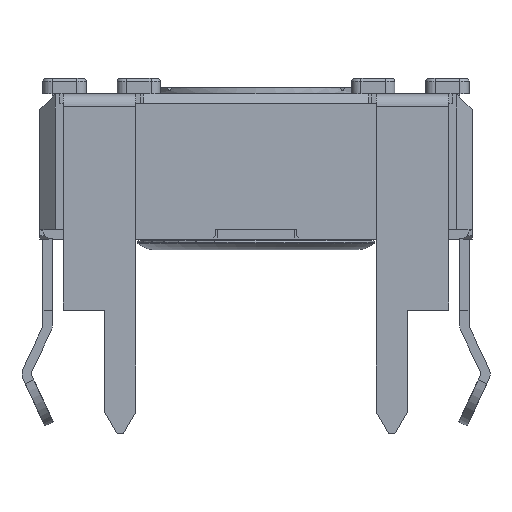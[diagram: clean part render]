
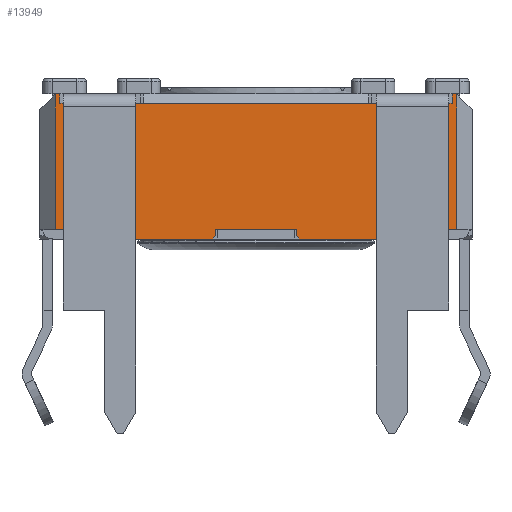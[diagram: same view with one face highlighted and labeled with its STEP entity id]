
A CAD part, front view. The second image highlights one B-rep face of the part: STEP entity #13949.
In plain terms, the highlighted planar face has unit normal (0, -1, 0).
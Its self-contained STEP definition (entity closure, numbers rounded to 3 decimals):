
#1090=FACE_OUTER_BOUND('',#1828,.T.);
#1828=EDGE_LOOP('',(#11010,#11011,#11012,#11013,#11014,#11015,#11016,#11017,
#11018,#11019,#11020,#11021,#11022,#11023,#11024,#11025,#11026,#11027,#11028,
#11029,#11030,#11031,#11032,#11033,#11034));
#2495=LINE('',#20072,#4091);
#2498=LINE('',#20080,#4094);
#2524=LINE('',#20131,#4120);
#2525=LINE('',#20133,#4121);
#2528=LINE('',#20141,#4124);
#2554=LINE('',#20192,#4150);
#2746=LINE('',#20756,#4342);
#2759=LINE('',#20780,#4355);
#2908=LINE('',#21235,#4504);
#3072=LINE('',#21677,#4668);
#3077=LINE('',#21687,#4673);
#3082=LINE('',#21697,#4678);
#3097=LINE('',#21723,#4693);
#3182=LINE('',#21996,#4778);
#3190=LINE('',#22014,#4786);
#3196=LINE('',#22022,#4792);
#3197=LINE('',#22025,#4793);
#3198=LINE('',#22027,#4794);
#3199=LINE('',#22029,#4795);
#3200=LINE('',#22030,#4796);
#3201=LINE('',#22031,#4797);
#3202=LINE('',#22032,#4798);
#3203=LINE('',#22033,#4799);
#3204=LINE('',#22034,#4800);
#3205=LINE('',#22035,#4801);
#4091=VECTOR('',#16097,10.);
#4094=VECTOR('',#16108,10.);
#4120=VECTOR('',#16136,10.);
#4121=VECTOR('',#16139,10.);
#4124=VECTOR('',#16150,10.);
#4150=VECTOR('',#16178,10.);
#4342=VECTOR('',#16748,10.);
#4355=VECTOR('',#16775,10.);
#4504=VECTOR('',#17162,10.);
#4668=VECTOR('',#17458,10.);
#4673=VECTOR('',#17463,10.);
#4678=VECTOR('',#17468,10.);
#4693=VECTOR('',#17485,10.);
#4778=VECTOR('',#17704,10.);
#4786=VECTOR('',#17716,10.);
#4792=VECTOR('',#17726,10.);
#4793=VECTOR('',#17729,10.);
#4794=VECTOR('',#17730,10.);
#4795=VECTOR('',#17731,10.);
#4796=VECTOR('',#17732,10.);
#4797=VECTOR('',#17733,10.);
#4798=VECTOR('',#17734,10.);
#4799=VECTOR('',#17735,10.);
#4800=VECTOR('',#17736,10.);
#4801=VECTOR('',#17737,10.);
#5381=VERTEX_POINT('',#19356);
#5391=VERTEX_POINT('',#19378);
#5399=VERTEX_POINT('',#19399);
#5438=VERTEX_POINT('',#19496);
#5647=VERTEX_POINT('',#20079);
#5671=VERTEX_POINT('',#20129);
#5672=VERTEX_POINT('',#20140);
#5696=VERTEX_POINT('',#20190);
#5878=VERTEX_POINT('',#20753);
#5879=VERTEX_POINT('',#20755);
#5882=VERTEX_POINT('',#20777);
#5883=VERTEX_POINT('',#20779);
#6009=VERTEX_POINT('',#21231);
#6126=VERTEX_POINT('',#21676);
#6130=VERTEX_POINT('',#21684);
#6131=VERTEX_POINT('',#21686);
#6135=VERTEX_POINT('',#21694);
#6136=VERTEX_POINT('',#21696);
#6198=VERTEX_POINT('',#21994);
#6199=VERTEX_POINT('',#21995);
#6206=VERTEX_POINT('',#22012);
#6207=VERTEX_POINT('',#22013);
#6208=VERTEX_POINT('',#22024);
#6209=VERTEX_POINT('',#22026);
#6210=VERTEX_POINT('',#22028);
#7065=EDGE_CURVE('',#5438,#5399,#2495,.T.);
#7068=EDGE_CURVE('',#5647,#5438,#2498,.T.);
#7094=EDGE_CURVE('',#5399,#5671,#2524,.T.);
#7095=EDGE_CURVE('',#5381,#5391,#2525,.T.);
#7098=EDGE_CURVE('',#5672,#5381,#2528,.T.);
#7124=EDGE_CURVE('',#5391,#5696,#2554,.T.);
#7407=EDGE_CURVE('',#5879,#5878,#2746,.T.);
#7420=EDGE_CURVE('',#5883,#5882,#2759,.T.);
#7618=EDGE_CURVE('',#5883,#6009,#2908,.T.);
#7803=EDGE_CURVE('',#6126,#6009,#3072,.T.);
#7808=EDGE_CURVE('',#6131,#6130,#3077,.T.);
#7813=EDGE_CURVE('',#6136,#6135,#3082,.T.);
#7828=EDGE_CURVE('',#6136,#5878,#3097,.T.);
#7932=EDGE_CURVE('',#6198,#6199,#3182,.T.);
#7940=EDGE_CURVE('',#6206,#6207,#3190,.T.);
#7946=EDGE_CURVE('',#6131,#6198,#3196,.T.);
#7947=EDGE_CURVE('',#6130,#6208,#3197,.T.);
#7948=EDGE_CURVE('',#6209,#6208,#3198,.T.);
#7949=EDGE_CURVE('',#6209,#6210,#3199,.T.);
#7950=EDGE_CURVE('',#6210,#6126,#3200,.T.);
#7951=EDGE_CURVE('',#5882,#5672,#3201,.T.);
#7952=EDGE_CURVE('',#5647,#5696,#3202,.T.);
#7953=EDGE_CURVE('',#5671,#5879,#3203,.T.);
#7954=EDGE_CURVE('',#6135,#6207,#3204,.T.);
#7955=EDGE_CURVE('',#6206,#6199,#3205,.T.);
#11010=ORIENTED_EDGE('',*,*,#7932,.F.);
#11011=ORIENTED_EDGE('',*,*,#7946,.F.);
#11012=ORIENTED_EDGE('',*,*,#7808,.T.);
#11013=ORIENTED_EDGE('',*,*,#7947,.T.);
#11014=ORIENTED_EDGE('',*,*,#7948,.F.);
#11015=ORIENTED_EDGE('',*,*,#7949,.T.);
#11016=ORIENTED_EDGE('',*,*,#7950,.T.);
#11017=ORIENTED_EDGE('',*,*,#7803,.T.);
#11018=ORIENTED_EDGE('',*,*,#7618,.F.);
#11019=ORIENTED_EDGE('',*,*,#7420,.T.);
#11020=ORIENTED_EDGE('',*,*,#7951,.T.);
#11021=ORIENTED_EDGE('',*,*,#7098,.T.);
#11022=ORIENTED_EDGE('',*,*,#7095,.T.);
#11023=ORIENTED_EDGE('',*,*,#7124,.T.);
#11024=ORIENTED_EDGE('',*,*,#7952,.F.);
#11025=ORIENTED_EDGE('',*,*,#7068,.T.);
#11026=ORIENTED_EDGE('',*,*,#7065,.T.);
#11027=ORIENTED_EDGE('',*,*,#7094,.T.);
#11028=ORIENTED_EDGE('',*,*,#7953,.T.);
#11029=ORIENTED_EDGE('',*,*,#7407,.T.);
#11030=ORIENTED_EDGE('',*,*,#7828,.F.);
#11031=ORIENTED_EDGE('',*,*,#7813,.T.);
#11032=ORIENTED_EDGE('',*,*,#7954,.T.);
#11033=ORIENTED_EDGE('',*,*,#7940,.F.);
#11034=ORIENTED_EDGE('',*,*,#7955,.T.);
#13033=PLANE('',#14912);
#13949=ADVANCED_FACE('',(#1090),#13033,.T.);
#14912=AXIS2_PLACEMENT_3D('',#22023,#17727,#17728);
#16097=DIRECTION('',(-1.,0.,0.));
#16108=DIRECTION('',(-1.,0.,0.));
#16136=DIRECTION('',(-1.,0.,0.));
#16139=DIRECTION('',(-1.,0.,0.));
#16150=DIRECTION('',(-1.,0.,0.));
#16178=DIRECTION('',(-1.,0.,0.));
#16748=DIRECTION('',(-1.,0.,0.));
#16775=DIRECTION('',(-1.,0.,0.));
#17162=DIRECTION('',(0.,0.,-1.));
#17458=DIRECTION('',(1.,0.,0.));
#17463=DIRECTION('',(1.,0.,0.));
#17468=DIRECTION('',(1.,0.,0.));
#17485=DIRECTION('',(0.,0.,1.));
#17704=DIRECTION('',(-0.707,0.,-0.707));
#17716=DIRECTION('',(-0.707,0.,0.707));
#17726=DIRECTION('',(0.,0.,-1.));
#17727=DIRECTION('center_axis',(0.,-1.,0.));
#17728=DIRECTION('ref_axis',(0.,0.,-1.));
#17729=DIRECTION('',(0.,0.,-1.));
#17730=DIRECTION('',(-0.707,0.,0.707));
#17731=DIRECTION('',(1.,0.,0.));
#17732=DIRECTION('',(0.,0.,1.));
#17733=DIRECTION('',(0.,0.,-1.));
#17734=DIRECTION('',(1.,0.,0.));
#17735=DIRECTION('',(0.,0.,1.));
#17736=DIRECTION('',(0.,0.,-1.));
#17737=DIRECTION('',(1.,0.,0.));
#19356=CARTESIAN_POINT('',(-1.217,-9.898,4.1));
#19378=CARTESIAN_POINT('',(-3.567,-9.898,4.1));
#19399=CARTESIAN_POINT('',(-13.717,-9.898,4.1));
#19496=CARTESIAN_POINT('',(-11.367,-9.898,4.1));
#20072=CARTESIAN_POINT('',(-3.944,-9.898,4.1));
#20079=CARTESIAN_POINT('',(-11.117,-9.898,4.1));
#20080=CARTESIAN_POINT('',(-3.944,-9.898,4.1));
#20129=CARTESIAN_POINT('',(-13.817,-9.898,4.1));
#20131=CARTESIAN_POINT('',(-3.944,-9.898,4.1));
#20133=CARTESIAN_POINT('',(-1.862,-9.898,4.1));
#20140=CARTESIAN_POINT('',(-1.117,-9.898,4.1));
#20141=CARTESIAN_POINT('',(-1.862,-9.898,4.1));
#20190=CARTESIAN_POINT('',(-3.817,-9.898,4.1));
#20192=CARTESIAN_POINT('',(-1.862,-9.898,4.1));
#20753=CARTESIAN_POINT('',(-13.967,-9.898,4.4));
#20755=CARTESIAN_POINT('',(-13.817,-9.898,4.4));
#20756=CARTESIAN_POINT('',(-14.467,-9.898,4.4));
#20777=CARTESIAN_POINT('',(-1.117,-9.898,4.4));
#20779=CARTESIAN_POINT('',(-0.967,-9.898,4.4));
#20780=CARTESIAN_POINT('',(-14.467,-9.898,4.4));
#21231=CARTESIAN_POINT('',(-0.967,-9.898,0.));
#21235=CARTESIAN_POINT('',(-0.967,-9.898,0.));
#21676=CARTESIAN_POINT('',(-1.467,-9.898,0.));
#21677=CARTESIAN_POINT('',(-0.646,-9.898,0.));
#21684=CARTESIAN_POINT('',(-6.167,-9.898,0.));
#21686=CARTESIAN_POINT('',(-8.767,-9.898,0.));
#21687=CARTESIAN_POINT('',(-14.467,-9.898,0.));
#21694=CARTESIAN_POINT('',(-13.467,-9.898,0.));
#21696=CARTESIAN_POINT('',(-13.967,-9.898,0.));
#21697=CARTESIAN_POINT('',(-7.245,-9.898,0.));
#21723=CARTESIAN_POINT('',(-13.967,-9.898,0.));
#21994=CARTESIAN_POINT('',(-8.767,-9.898,-0.2));
#21995=CARTESIAN_POINT('',(-8.867,-9.898,-0.3));
#21996=CARTESIAN_POINT('',(-6.667,-9.898,1.9));
#22012=CARTESIAN_POINT('',(-13.367,-9.898,-0.3));
#22013=CARTESIAN_POINT('',(-13.467,-9.898,-0.2));
#22014=CARTESIAN_POINT('',(-10.242,-9.898,-3.425));
#22022=CARTESIAN_POINT('',(-8.767,-9.898,0.));
#22023=CARTESIAN_POINT('Origin',(-0.467,-9.898,0.));
#22024=CARTESIAN_POINT('',(-6.167,-9.898,-0.2));
#22025=CARTESIAN_POINT('',(-6.167,-9.898,0.));
#22026=CARTESIAN_POINT('',(-6.067,-9.898,-0.3));
#22027=CARTESIAN_POINT('',(-4.767,-9.898,-1.6));
#22028=CARTESIAN_POINT('',(-1.467,-9.898,-0.3));
#22029=CARTESIAN_POINT('',(-0.467,-9.898,-0.3));
#22030=CARTESIAN_POINT('',(-1.467,-9.898,-0.15));
#22031=CARTESIAN_POINT('',(-1.117,-9.898,2.2));
#22032=CARTESIAN_POINT('',(-3.967,-9.898,4.1));
#22033=CARTESIAN_POINT('',(-13.817,-9.898,2.2));
#22034=CARTESIAN_POINT('',(-13.467,-9.898,-0.15));
#22035=CARTESIAN_POINT('',(-0.467,-9.898,-0.3));
